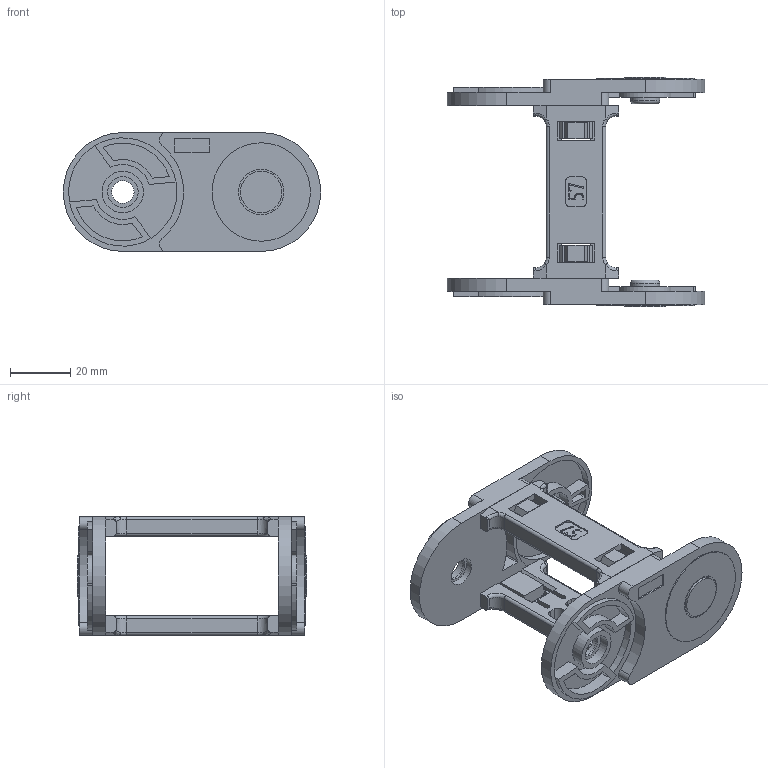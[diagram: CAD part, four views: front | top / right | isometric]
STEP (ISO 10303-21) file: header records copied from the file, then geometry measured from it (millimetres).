
FILE_DESCRIPTION(('STEP AP214'), '1');
FILE_NAME('Êàáåëü-êàíàë ïëàñòèêîâûé TPO25x57-R50', '', ('UNSPECIFIED'), ('UNSPECIFIED'), 'ASCON STEP Converter 1.6', 'ASCON Math Kernel', '');
FILE_SCHEMA(('AUTOMOTIVE_DESIGN { 1 0 10303 214 3 1 1}'));
Length unit declared in the file: millimetre
Assembly tree (6 placements, depth 2):
  (unnamed)
    (unnamed)
    (unnamed)
    (unnamed)  x2
    (unnamed)  x2
Bounding box: 85.5 x 76.3 x 39.5 mm (x, y, z)
Volume: 36276.1 mm3; surface area: 31818.2 mm2
Topology: 6 solids, 6 shells, 820 faces, 2224 edges, 1466 vertices
Faces by surface type: plane 463, cylinder 331, bspline 16, torus 10
Full cylindrical faces by diameter (mm): 7.5 x2, 9.4 x2, 9.7 x2, 10.2 x2, 10.5 x2, 13.8 x4, 14 x2, 15.1 x2, 32.7 x2, 36.3 x2
Entity records: 24676 total; most frequent: CARTESIAN_POINT 4048, DIRECTION 3274, ORIENTED_EDGE 3206, EDGE_CURVE 1603, AXIS2_PLACEMENT_3D 1093, LINE 1088, VECTOR 1088, VERTEX_POINT 1073
